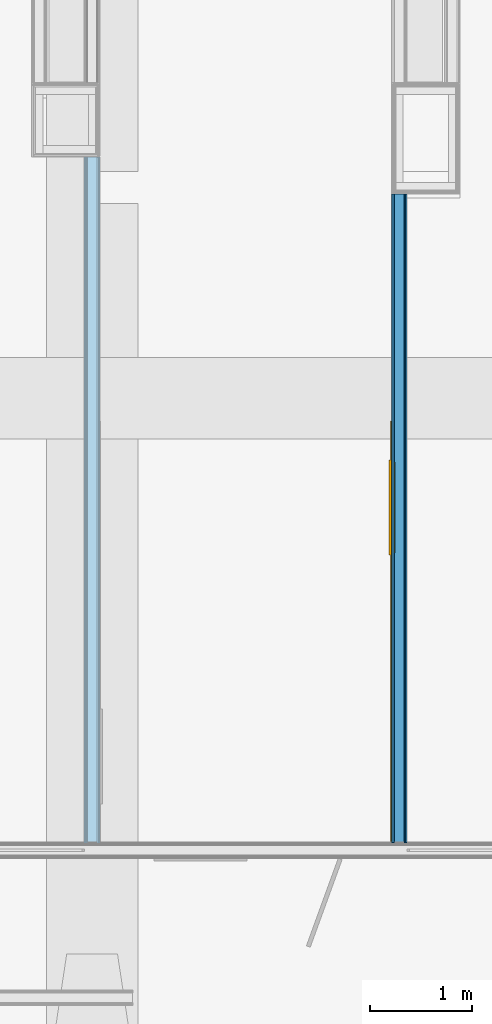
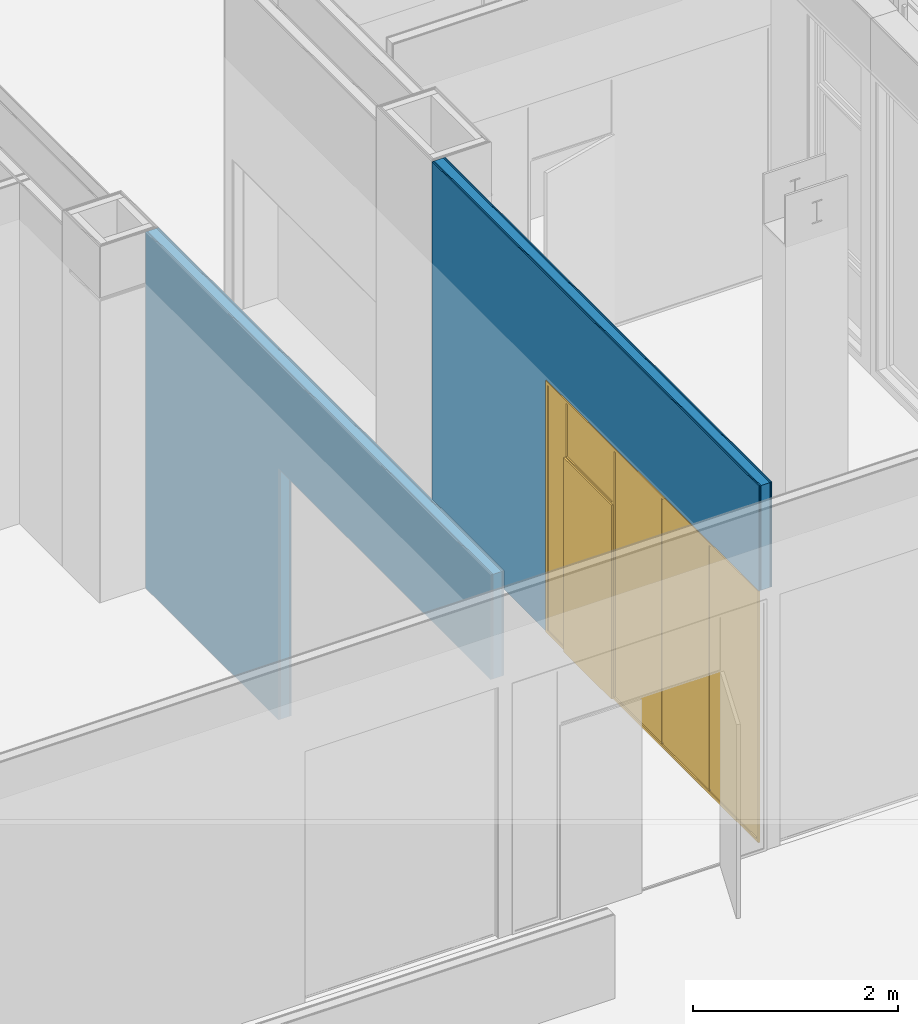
# One storey, part 70 of 94: 5 building element parts, 1 door, 2 openings, 2 elements without a shape of their own, plus 5 elements that do not belong to this part.
"""IFC2X3 building model written with IfcOpenShell, lengths in millimetres."""

from ifc_helpers import new_model, entity, si_unit, converted_unit, derived_unit, money_unit, direction, frame, origin_with_axes, place, context, subcontext, project, spatial, open_shell, faceted_brep, surface_model, material, type_object, element, fill, aggregate, save


model = new_model("IFC2X3")

# Units and contexts
model_context = context("Model", 3, precision=0.01, world=origin_with_axes(), true_north=direction((0.0, 1.0)))
body_context = subcontext(model_context, "Body", "Model", "MODEL_VIEW")
ifc_project = project(units=[si_unit("LENGTHUNIT", "METRE", prefix="MILLI"), si_unit("AREAUNIT", "SQUARE_METRE"), si_unit("VOLUMEUNIT", "CUBIC_METRE"), converted_unit("PLANEANGLEUNIT", "DEGREE", entity("IfcPlaneAngleMeasure", 0.0174532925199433), si_unit("PLANEANGLEUNIT", "RADIAN"), dimensions=[0, 0, 0, 0, 0, 0, 0]), money_unit("EUR"), converted_unit("TIMEUNIT", "Year", entity("IfcTimeMeasure", 31557600.0), si_unit("TIMEUNIT", "SECOND"), dimensions=[0, 0, 1, 0, 0, 0, 0]), si_unit("MASSUNIT", "GRAM", prefix="KILO"), si_unit("THERMODYNAMICTEMPERATUREUNIT", "DEGREE_CELSIUS"), si_unit("LUMINOUSINTENSITYUNIT", "LUMEN"), si_unit("ENERGYUNIT", "JOULE", prefix="MEGA"), derived_unit("THERMALCONDUCTANCEUNIT", [(si_unit("POWERUNIT", "WATT"), 1), (si_unit("LENGTHUNIT", "METRE"), -1), (si_unit("THERMODYNAMICTEMPERATUREUNIT", "KELVIN"), -1)]), derived_unit("SPECIFICHEATCAPACITYUNIT", [(si_unit("ENERGYUNIT", "JOULE"), 1), (si_unit("MASSUNIT", "GRAM", prefix="KILO"), -1), (si_unit("THERMODYNAMICTEMPERATUREUNIT", "KELVIN"), -1)]), derived_unit("MASSDENSITYUNIT", [(si_unit("MASSUNIT", "GRAM", prefix="KILO"), 1), (si_unit("VOLUMEUNIT", "CUBIC_METRE"), -1)])], contexts=[model_context])

# Site, building, storey
site_placement = place(None, origin_with_axes())
site = spatial("IfcSite", under=ifc_project, at=site_placement, Name="<site naam>", CompositionType="ELEMENT")
building_placement = place(site_placement, origin_with_axes())
building = spatial("IfcBuilding", under=site, at=building_placement, Name="<Naam gebouw>", CompositionType="ELEMENT")
storey_placement = place(building_placement, frame((0.0, 0.0, 4250.0), z_axis=(0.0, 0.0, 1.0), x_axis=(1.0, 0.0, 0.0)))
storey = spatial("IfcBuildingStorey", under=building, at=storey_placement, Name="01 1e verdieping", CompositionType="ELEMENT", Elevation=4250.0)

# Door
door_style = type_object("IfcDoorStyle", Name="D1 bl zl2 27", ConstructionType="NOTDEFINED", OperationType="USERDEFINED", ParameterTakesPrecedence=False, Sizeable=False)
wall_1_placement = place(storey_placement, frame((-974.9999999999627, 2012.500000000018, 0.0), z_axis=(0.0, 0.0, 1.0), x_axis=(0.0, -1.0, 0.0)))
opening_1_placement = place(wall_1_placement, frame((4313.282579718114, 0.0, 0.0), z_axis=(0.0, 0.0, 1.0), x_axis=(1.0, 0.0, 0.0)))
door_placement = place(opening_1_placement, frame((2075.782579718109, 0.0, 0.0), z_axis=(0.0, 0.0, 1.0), x_axis=(-1.0, 0.0, 0.0)))
door = element("IfcDoor", 1, at=door_placement, inside=storey, type_object=door_style, Name="22_BI-F-18_305", ObjectType="DOOR", OverallHeight=3000.0, OverallWidth=4151.56, context=body_context, shape_type="SurfaceModel", body=[
    faceted_brep([(3768.565159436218, 44.99999999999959, 0.0), (3751.565159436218, 44.99999999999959, 0.0), (3751.565159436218, 44.99999999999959, 11.99999999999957), (3768.565159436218, 44.99999999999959, 11.99999999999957), (2834.56515943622, 44.99999999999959, 0.0), (2851.56515943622, 44.99999999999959, 0.0), (2851.56515943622, 64.99999999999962, 0.0), (3751.565159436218, 64.99999999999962, 0.0), (3751.565159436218, 64.99999999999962, 11.99999999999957), (2851.56515943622, 64.99999999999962, 11.99999999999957), (2851.56515943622, 44.99999999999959, 11.99999999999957), (2834.56515943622, 44.99999999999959, 11.99999999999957)], [[[0, 1, 2, 3]], [[0, 4, 5, 6, 7, 1]], [[1, 7, 8, 2]], [[3, 2, 8, 9, 10, 11]], [[4, 0, 3, 11]], [[5, 4, 11, 10]], [[6, 5, 10, 9]], [[7, 6, 9, 8]]]),
    faceted_brep([(4151.565159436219, 84.99999999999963, 0.0), (4151.565159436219, 64.99999999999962, 0.0), (4118.565159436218, 64.99999999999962, 0.0), (4118.565159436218, 84.99999999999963, 0.0), (4151.565159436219, 84.9999999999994, 2967.0), (4151.565159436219, 64.99999999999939, 2967.0), (4118.565159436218, 64.99999999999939, 2967.0), (4118.565159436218, 64.99999999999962, 33.00000000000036), (4118.565159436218, 84.99999999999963, 33.00000000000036), (4118.565159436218, 84.9999999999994, 2967.0)], [[[0, 1, 2, 3]], [[4, 5, 1, 0]], [[1, 5, 6, 7, 2]], [[3, 2, 7, 8]], [[0, 3, 8, 9, 4]], [[9, 6, 5, 4]], [[8, 7, 6, 9]]]),
    faceted_brep([(3768.565159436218, 64.99999999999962, 0.0), (3793.565159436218, 64.99999999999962, 0.0), (3793.565159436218, 64.99999999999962, 32.99999999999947), (3793.565159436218, 64.99999999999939, 2967.0), (3751.565159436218, 64.99999999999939, 2967.0), (3751.565159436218, 64.99999999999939, 2333.0), (3751.565159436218, 64.99999999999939, 2317.0), (3768.565159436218, 64.99999999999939, 2317.0), (3768.565159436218, 84.99999999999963, 0.0), (3793.565159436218, 84.99999999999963, 0.0), (3793.565159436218, 84.99999999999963, 32.99999999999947), (3793.565159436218, 84.9999999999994, 2967.0), (3751.565159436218, 84.9999999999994, 2967.0), (3751.565159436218, 84.9999999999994, 2333.0), (3751.565159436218, 84.9999999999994, 2317.0), (3768.565159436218, 84.9999999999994, 2317.0)], [[[0, 1, 2, 3, 4, 5, 6, 7]], [[8, 9, 1, 0]], [[9, 10, 2, 1]], [[10, 11, 3, 2]], [[11, 12, 4, 3]], [[12, 13, 5, 4]], [[6, 5, 13, 14]], [[14, 15, 7, 6]], [[7, 15, 8, 0]], [[15, 14, 13, 12, 11, 10, 9, 8]]]),
    faceted_brep([(4118.565159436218, 84.99999999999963, 33.00000000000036), (4118.565159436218, 64.99999999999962, 33.00000000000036), (4118.565159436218, 64.99999999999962, 0.0), (4118.565159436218, 84.99999999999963, 0.0), (3793.565159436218, 84.99999999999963, 33.00000000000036), (3793.565159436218, 64.99999999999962, 33.00000000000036), (3793.565159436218, 64.99999999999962, 0.0), (3793.565159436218, 84.99999999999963, 0.0)], [[[0, 1, 2, 3]], [[4, 5, 1, 0]], [[1, 5, 6, 2]], [[3, 2, 6, 7]], [[0, 3, 7, 4]], [[7, 6, 5, 4]]]),
    faceted_brep([(0.0, 84.99999999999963, 0.0), (0.0, 64.99999999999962, 0.0), (0.0, 64.99999999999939, 2967.0), (0.0, 84.9999999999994, 2967.0), (33.00000000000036, 84.99999999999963, 0.0), (33.00000000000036, 64.99999999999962, 0.0), (33.00000000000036, 64.99999999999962, 33.00000000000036), (33.00000000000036, 64.99999999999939, 2967.0), (33.00000000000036, 84.9999999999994, 2967.0), (33.00000000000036, 84.99999999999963, 33.00000000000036)], [[[0, 1, 2, 3]], [[4, 5, 1, 0]], [[1, 5, 6, 7, 2]], [[3, 2, 7, 8]], [[0, 3, 8, 9, 4]], [[9, 6, 5, 4]], [[8, 7, 6, 9]]]),
    faceted_brep([(2834.56515943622, 64.99999999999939, 2317.0), (2851.56515943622, 64.99999999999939, 2317.0), (2851.56515943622, 64.99999999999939, 2333.0), (2851.56515943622, 64.99999999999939, 2967.0), (2809.56515943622, 64.99999999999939, 2967.0), (2809.56515943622, 64.99999999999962, 32.99999999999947), (2809.56515943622, 64.99999999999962, 0.0), (2834.56515943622, 64.99999999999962, 0.0), (2834.56515943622, 84.9999999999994, 2317.0), (2851.56515943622, 84.9999999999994, 2317.0), (2851.56515943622, 84.9999999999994, 2333.0), (2851.56515943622, 84.9999999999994, 2967.0), (2809.56515943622, 84.9999999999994, 2967.0), (2809.56515943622, 84.99999999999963, 32.99999999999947), (2809.56515943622, 84.99999999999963, 0.0), (2834.56515943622, 84.99999999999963, 0.0)], [[[0, 1, 2, 3, 4, 5, 6, 7]], [[0, 8, 9, 1]], [[9, 10, 2, 1]], [[10, 11, 3, 2]], [[11, 12, 4, 3]], [[12, 13, 5, 4]], [[13, 14, 6, 5]], [[7, 6, 14, 15]], [[7, 15, 8, 0]], [[8, 15, 14, 13, 12, 11, 10, 9]]]),
    faceted_brep([(2809.56515943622, 84.99999999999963, 33.00000000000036), (2809.56515943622, 64.99999999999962, 33.00000000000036), (2809.56515943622, 64.99999999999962, 0.0), (2809.56515943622, 84.99999999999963, 0.0), (33.00000000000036, 84.99999999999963, 33.00000000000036), (33.00000000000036, 64.99999999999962, 33.00000000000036), (33.00000000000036, 64.99999999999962, 0.0), (33.00000000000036, 84.99999999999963, 0.0)], [[[0, 1, 2, 3]], [[4, 5, 1, 0]], [[1, 5, 6, 2]], [[3, 2, 6, 7]], [[0, 3, 7, 4]], [[7, 6, 5, 4]]]),
    faceted_brep([(4151.565159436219, 84.9999999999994, 3000.0), (4151.565159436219, 64.99999999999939, 3000.0), (4151.565159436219, 64.99999999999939, 2967.0), (4151.565159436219, 84.9999999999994, 2967.0), (0.0, 84.9999999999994, 3000.0), (0.0, 64.99999999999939, 3000.0), (0.0, 64.99999999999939, 2967.0), (33.00000000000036, 64.99999999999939, 2967.0), (2809.56515943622, 64.99999999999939, 2967.0), (2851.56515943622, 64.99999999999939, 2967.0), (3751.565159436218, 64.99999999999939, 2967.0), (3793.565159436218, 64.99999999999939, 2967.0), (4118.565159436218, 64.99999999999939, 2967.0), (4118.565159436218, 84.9999999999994, 2967.0), (3793.565159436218, 84.9999999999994, 2967.0), (3751.565159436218, 84.9999999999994, 2967.0), (2851.56515943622, 84.9999999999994, 2967.0), (2809.56515943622, 84.9999999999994, 2967.0), (33.00000000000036, 84.9999999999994, 2967.0), (0.0, 84.9999999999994, 2967.0)], [[[0, 1, 2, 3]], [[4, 5, 1, 0]], [[1, 5, 6, 7, 8, 9, 10, 11, 12, 2]], [[3, 2, 12, 13]], [[0, 3, 13, 14, 15, 16, 17, 18, 19, 4]], [[19, 6, 5, 4]], [[18, 7, 6, 19]], [[17, 8, 7, 18]], [[16, 9, 8, 17]], [[15, 10, 9, 16]], [[14, 11, 10, 15]], [[13, 12, 11, 14]]]),
    faceted_brep([(3751.565159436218, 64.99999999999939, 2317.0), (3751.565159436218, 64.99999999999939, 2333.0), (2851.56515943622, 64.99999999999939, 2333.0), (2851.56515943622, 64.99999999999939, 2317.0), (3751.565159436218, 84.9999999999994, 2317.0), (3751.565159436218, 84.9999999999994, 2333.0), (2851.56515943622, 84.9999999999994, 2333.0), (2851.56515943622, 84.9999999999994, 2317.0)], [[[0, 1, 2, 3]], [[4, 5, 1, 0]], [[5, 6, 2, 1]], [[3, 2, 6, 7]], [[7, 4, 0, 3]], [[7, 6, 5, 4]]]),
    faceted_brep([(2834.56515943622, 102.9999999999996, 0.0), (3768.565159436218, 102.9999999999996, 0.0), (3768.565159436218, 62.99999999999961, 0.0), (2834.56515943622, 62.99999999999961, 0.0), (2834.56515943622, 102.9999999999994, 2317.0), (3768.565159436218, 102.9999999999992, 2317.0), (3768.565159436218, 62.99999999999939, 2317.0), (2834.56515943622, 62.99999999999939, 2317.0)], [[[0, 1, 2, 3]], [[0, 4, 5, 1]], [[1, 5, 6, 2]], [[3, 2, 6, 7]], [[4, 0, 3, 7]], [[5, 4, 7, 6]]]),
    surface_model("IfcShellBasedSurfaceModel", [(3751.565159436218, 58.99999999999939, 2333.0), (3751.565159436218, 58.99999999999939, 2967.0), (2851.56515943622, 58.99999999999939, 2967.0), (2851.56515943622, 58.99999999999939, 2333.0)], [open_shell([[[0, 1, 2, 3]]])]),
    surface_model("IfcShellBasedSurfaceModel", [(3751.565159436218, 70.9999999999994, 2333.0), (2851.56515943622, 70.9999999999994, 2333.0), (2851.56515943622, 70.9999999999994, 2967.0), (3751.565159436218, 70.9999999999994, 2967.0)], [open_shell([[[0, 1, 2, 3]]])]),
    surface_model("IfcShellBasedSurfaceModel", [(4118.565159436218, 58.99999999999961, 33.00000000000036), (4118.565159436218, 58.99999999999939, 2967.0), (3793.565159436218, 58.99999999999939, 2967.0), (3793.565159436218, 58.99999999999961, 33.00000000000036)], [open_shell([[[0, 1, 2, 3]]])]),
    surface_model("IfcShellBasedSurfaceModel", [(4118.565159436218, 70.99999999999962, 33.00000000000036), (3793.565159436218, 70.99999999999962, 33.00000000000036), (3793.565159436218, 70.9999999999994, 2967.0), (4118.565159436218, 70.9999999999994, 2967.0)], [open_shell([[[0, 1, 2, 3]]])]),
    surface_model("IfcShellBasedSurfaceModel", [(1887.376772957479, 58.99999999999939, 33.00000000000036), (2809.56515943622, 58.99999999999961, 33.00000000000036), (2809.56515943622, 58.99999999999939, 2967.0), (1887.376772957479, 58.99999999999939, 2967.0)], [open_shell([[[0, 1, 2, 3]]])]),
    surface_model("IfcShellBasedSurfaceModel", [(1887.376772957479, 70.9999999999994, 33.00000000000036), (1887.376772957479, 70.99999999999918, 2967.0), (2809.56515943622, 70.9999999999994, 2967.0), (2809.56515943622, 70.99999999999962, 33.00000000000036)], [open_shell([[[0, 1, 2, 3]]])]),
    surface_model("IfcShellBasedSurfaceModel", [(960.1883864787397, 58.99999999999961, 33.00000000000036), (1882.37677295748, 58.99999999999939, 33.00000000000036), (1882.37677295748, 58.99999999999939, 2967.0), (960.1883864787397, 58.99999999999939, 2967.0)], [open_shell([[[0, 1, 2, 3]]])]),
    surface_model("IfcShellBasedSurfaceModel", [(960.1883864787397, 70.99999999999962, 33.00000000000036), (960.1883864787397, 70.9999999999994, 2967.0), (1882.37677295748, 70.99999999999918, 2967.0), (1882.37677295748, 70.9999999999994, 33.00000000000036)], [open_shell([[[0, 1, 2, 3]]])]),
    surface_model("IfcShellBasedSurfaceModel", [(33.00000000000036, 58.99999999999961, 33.00000000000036), (955.1883864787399, 58.99999999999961, 33.00000000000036), (955.1883864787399, 58.99999999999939, 2967.0), (33.00000000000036, 58.99999999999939, 2967.0)], [open_shell([[[0, 1, 2, 3]]])]),
    surface_model("IfcShellBasedSurfaceModel", [(33.00000000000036, 70.99999999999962, 33.00000000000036), (33.00000000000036, 70.9999999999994, 2967.0), (955.1883864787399, 70.9999999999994, 2967.0), (955.1883864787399, 70.99999999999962, 33.00000000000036)], [open_shell([[[0, 1, 2, 3]]])]),
    faceted_brep([(1887.376772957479, 79.99999999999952, 33.00000000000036), (1882.37677295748, 79.99999999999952, 33.00000000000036), (1882.37677295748, 84.9999999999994, 33.00000000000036), (1887.376772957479, 84.9999999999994, 33.00000000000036), (1887.376772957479, 79.99999999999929, 2967.0), (1882.37677295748, 79.99999999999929, 2967.0), (1882.37677295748, 84.99999999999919, 2967.0), (1887.376772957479, 84.99999999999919, 2967.0)], [[[0, 1, 2, 3]], [[0, 4, 5, 1]], [[1, 5, 6, 2]], [[3, 2, 6, 7]], [[4, 0, 3, 7]], [[5, 4, 7, 6]]]),
    faceted_brep([(960.1883864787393, 79.99999999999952, 33.00000000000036), (955.1883864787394, 79.99999999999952, 33.00000000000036), (955.1883864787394, 84.99999999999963, 33.00000000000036), (960.1883864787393, 84.99999999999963, 33.00000000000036), (960.1883864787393, 79.99999999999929, 2967.0), (955.1883864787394, 79.99999999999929, 2967.0), (955.1883864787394, 84.9999999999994, 2967.0), (960.1883864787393, 84.9999999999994, 2967.0)], [[[0, 1, 2, 3]], [[0, 4, 5, 1]], [[1, 5, 6, 2]], [[3, 2, 6, 7]], [[4, 0, 3, 7]], [[5, 4, 7, 6]]]),
])

# Wall, opening
wall_type = type_object("IfcWallType", Name="MS-01 GF 150 ECO DGS/2.100.2.A 150", PredefinedType="NOTDEFINED")
wall_1 = element("IfcWall", 2, at=wall_1_placement, inside=storey, type_object=wall_type, Name="22_Binnenwand_MS-01")
opening_1 = element("IfcOpeningElement", 3, at=opening_1_placement, cuts=wall_1, Name="22_BI-F-18_305", context=body_context, shape_type="Brep", body=[
    faceted_brep([(2075.782579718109, 76.00000000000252, 3000.0), (2075.782579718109, 76.00000000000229, 0.0), (-2075.782579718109, 76.00000000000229, 0.0), (-2075.782579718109, 76.0000000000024, 3000.0), (2075.782579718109, -76.00000000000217, 3000.0), (2075.782579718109, -76.00000000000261, 0.0), (-2075.782579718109, -76.00000000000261, 0.0), (-2075.782579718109, -76.0000000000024, 3000.0)], [[[0, 1, 2, 3]], [[4, 5, 1, 0]], [[5, 6, 2, 1]], [[6, 7, 3, 2]], [[7, 4, 0, 3]], [[6, 5, 4, 7]]]),
])

fill(opening_1, door)

# Building element part
ifc_material_1 = material(Name="gipsplaat")
building_element_part_1_placement = place(wall_1_placement, origin_with_axes())
building_element_part_1 = element("IfcBuildingElementPart", 4, at=building_element_part_1_placement, material=ifc_material_1, Name="gipsplaat", context=body_context, shape_type="Brep", body=[
    faceted_brep([(6389.065159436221, 62.50000000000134, 0.0), (0.0, 62.5, 0.0), (0.0, 75.00000000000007, 0.0), (6389.065159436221, 75.0000000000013, 0.0), (6389.065159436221, 62.50000000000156, 4250.0), (0.0, 62.50000000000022, 4250.0), (0.0, 75.00000000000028, 4250.0), (6389.065159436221, 75.0000000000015, 4250.0)], [[[0, 1, 2, 3]], [[4, 5, 1, 0]], [[2, 1, 5, 6]], [[3, 2, 6, 7]], [[3, 7, 4, 0]], [[7, 6, 5, 4]]]),
])

building_element_part_2_placement = place(wall_1_placement, origin_with_axes())
building_element_part_2 = element("IfcBuildingElementPart", 5, at=building_element_part_2_placement, material=ifc_material_1, Name="gipsplaat", context=body_context, shape_type="Brep", body=[
    faceted_brep([(6389.065159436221, 50.00000000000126, 0.0), (0.0, 50.00000000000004, 0.0), (0.0, 62.5, 0.0), (6389.065159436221, 62.50000000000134, 0.0), (6389.065159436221, 50.0000000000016, 4250.0), (0.0, 50.00000000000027, 4250.0), (0.0, 62.50000000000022, 4250.0), (6389.065159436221, 62.50000000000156, 4250.0)], [[[0, 1, 2, 3]], [[4, 5, 1, 0]], [[2, 1, 5, 6]], [[3, 2, 6, 7]], [[3, 7, 4, 0]], [[7, 6, 5, 4]]]),
])

building_element_part_3_placement = place(wall_1_placement, origin_with_axes())
building_element_part_3 = element("IfcBuildingElementPart", 6, at=building_element_part_3_placement, material=ifc_material_1, Name="gipsplaat", context=body_context, shape_type="Brep", body=[
    faceted_brep([(6389.065159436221, -62.49999999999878, 0.0), (0.0, -62.50000000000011, 0.0), (0.0, -49.99999999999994, 0.0), (6389.065159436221, -49.99999999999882, 0.0), (6389.065159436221, -62.49999999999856, 4250.0), (0.0, -62.49999999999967, 4250.0), (0.0, -49.99999999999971, 4250.0), (6389.065159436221, -49.9999999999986, 4250.0)], [[[0, 1, 2, 3]], [[4, 5, 1, 0]], [[2, 1, 5, 6]], [[3, 2, 6, 7]], [[3, 7, 4, 0]], [[7, 6, 5, 4]]]),
])

building_element_part_4_placement = place(wall_1_placement, origin_with_axes())
building_element_part_4 = element("IfcBuildingElementPart", 7, at=building_element_part_4_placement, material=ifc_material_1, Name="gipsplaat", context=body_context, shape_type="Brep", body=[
    faceted_brep([(6389.065159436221, -74.99999999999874, 0.0), (0.0, -75.00000000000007, 0.0), (0.0, -62.50000000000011, 0.0), (6389.065159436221, -62.49999999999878, 0.0), (6389.065159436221, -74.99999999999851, 4250.0), (0.0, -74.99999999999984, 4250.0), (0.0, -62.49999999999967, 4250.0), (6389.065159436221, -62.49999999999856, 4250.0)], [[[0, 1, 2, 3]], [[4, 5, 1, 0]], [[2, 1, 5, 6]], [[3, 2, 6, 7]], [[3, 7, 4, 0]], [[7, 6, 5, 4]]]),
])

ifc_material_2 = material(Name="isolatie_steenwol LSW")
building_element_part_5_placement = place(wall_1_placement, origin_with_axes())
building_element_part_5 = element("IfcBuildingElementPart", 8, at=building_element_part_5_placement, material=ifc_material_2, Name="isolatie_steenwol LSW", context=body_context, shape_type="Brep", body=[
    faceted_brep([(6389.065159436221, -49.99999999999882, 0.0), (0.0, -49.99999999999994, 0.0), (0.0, 50.00000000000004, 0.0), (6389.065159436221, 50.00000000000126, 0.0), (6389.065159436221, -49.9999999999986, 4250.0), (0.0, -49.99999999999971, 4250.0), (0.0, 50.00000000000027, 4250.0), (6389.065159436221, 50.0000000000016, 4250.0)], [[[0, 1, 2, 3]], [[4, 5, 1, 0]], [[2, 1, 5, 6]], [[3, 2, 6, 7]], [[3, 7, 4, 0]], [[7, 6, 5, 4]]]),
])

aggregate(wall_1, [building_element_part_1, building_element_part_2, building_element_part_3, building_element_part_4, building_element_part_5])

# Wall, opening, building element parts
wall_2_placement = place(storey_placement, frame((-3999.999999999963, 2374.8189865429, 0.0), z_axis=(0.0, 0.0, 1.0), x_axis=(0.0, -1.0, 0.0)))
wall_2 = element("IfcWall", 9, at=wall_2_placement, inside=storey, type_object=wall_type, Name="22_Binnenwand_MS-01")
opening_2_placement = place(wall_2_placement, frame((4675.601566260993, 0.0, 0.0), z_axis=(0.0, 0.0, 1.0), x_axis=(1.0, 0.0, 0.0)))
element("IfcOpeningElement", 10, at=opening_2_placement, cuts=wall_2, Name="22_BI-F-16_305", context=body_context, shape_type="Brep", body=[
    faceted_brep([(-2075.782579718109, -76.00000000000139, 3000.0), (-2075.782579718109, -76.00000000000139, 0.0), (2075.782579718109, -76.00000000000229, 0.0), (2075.782579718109, -76.00000000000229, 3000.0), (-2075.782579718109, 76.00000000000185, 3000.0), (-2075.782579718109, 76.00000000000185, 0.0), (2075.782579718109, 76.00000000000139, 0.0), (2075.782579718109, 76.00000000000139, 3000.0)], [[[0, 1, 2, 3]], [[4, 5, 1, 0]], [[5, 6, 2, 1]], [[6, 7, 3, 2]], [[7, 4, 0, 3]], [[6, 5, 4, 7]]]),
])
building_element_part_6_placement = place(wall_2_placement, origin_with_axes())
building_element_part_6 = element("IfcBuildingElementPart", 11, at=building_element_part_6_placement, material=ifc_material_1, Name="gipsplaat", context=body_context, shape_type="Brep", body=[
    faceted_brep([(6751.384145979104, 75.00008958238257, 3.000000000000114), (0.0, 75.00008958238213, 3.000000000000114), (0.0, 74.99999999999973, 4250.0), (6751.384145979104, 75.00000000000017, 4250.0), (0.0, 62.50000000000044, 3.000000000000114), (6751.384145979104, 62.49999999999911, 3.000000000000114), (0.0, 62.50000000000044, 4250.0), (6751.384145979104, 62.5, 4250.0)], [[[0, 1, 2, 3]], [[4, 1, 0, 5]], [[1, 4, 6, 2]], [[7, 3, 2, 6]], [[5, 0, 3, 7]], [[4, 5, 7, 6]]]),
])
building_element_part_7_placement = place(wall_2_placement, origin_with_axes())
building_element_part_7 = element("IfcBuildingElementPart", 12, at=building_element_part_7_placement, material=ifc_material_1, Name="gipsplaat", context=body_context, shape_type="Brep", body=[
    faceted_brep([(6751.384145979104, 62.49999999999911, 3.000000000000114), (0.0, 62.50000000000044, 3.000000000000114), (0.0, 62.50000000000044, 4250.0), (6751.384145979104, 62.5, 4250.0), (0.0, 49.99999999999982, 3.000000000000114), (6751.384145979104, 49.99999999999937, 3.000000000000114), (0.0, 50.00000000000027, 4250.0), (6751.384145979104, 49.99999999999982, 4250.0)], [[[0, 1, 2, 3]], [[4, 1, 0, 5]], [[1, 4, 6, 2]], [[7, 3, 2, 6]], [[5, 0, 3, 7]], [[4, 5, 7, 6]]]),
])
building_element_part_8_placement = place(wall_2_placement, origin_with_axes())
building_element_part_8 = element("IfcBuildingElementPart", 13, at=building_element_part_8_placement, material=ifc_material_2, Name="isolatie_steenwol LSW", context=body_context, shape_type="Brep", body=[
    faceted_brep([(6751.384145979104, 49.99999999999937, 3.000000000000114), (0.0, 49.99999999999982, 3.000000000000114), (0.0, 50.00000000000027, 4250.0), (6751.384145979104, 49.99999999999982, 4250.0), (0.0, -50.00000000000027, 3.000000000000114), (6751.384145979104, -50.00000000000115, 3.000000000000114), (0.0, -49.99999999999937, 4250.0), (6751.384145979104, -50.00000000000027, 4250.0)], [[[0, 1, 2, 3]], [[4, 1, 0, 5]], [[1, 4, 6, 2]], [[7, 3, 2, 6]], [[5, 0, 3, 7]], [[4, 5, 7, 6]]]),
])
building_element_part_9_placement = place(wall_2_placement, origin_with_axes())
building_element_part_9 = element("IfcBuildingElementPart", 14, at=building_element_part_9_placement, material=ifc_material_1, Name="gipsplaat", context=body_context, shape_type="Brep", body=[
    faceted_brep([(6751.384145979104, -50.00000000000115, 3.000000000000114), (0.0, -50.00000000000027, 3.000000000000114), (0.0, -49.99999999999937, 4250.0), (6751.384145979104, -50.00000000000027, 4250.0), (0.0, -62.49999999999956, 3.000000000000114), (6751.384145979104, -62.50000000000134, 3.000000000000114), (0.0, -62.49999999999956, 4250.0), (6751.384145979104, -62.50000000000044, 4250.0)], [[[0, 1, 2, 3]], [[4, 1, 0, 5]], [[1, 4, 6, 2]], [[7, 3, 2, 6]], [[5, 0, 3, 7]], [[4, 5, 7, 6]]]),
])
building_element_part_10_placement = place(wall_2_placement, origin_with_axes())
building_element_part_10 = element("IfcBuildingElementPart", 15, at=building_element_part_10_placement, material=ifc_material_1, Name="gipsplaat", context=body_context, shape_type="Brep", body=[
    faceted_brep([(6751.384145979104, -62.50000000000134, 3.000000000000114), (0.0, -62.49999999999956, 3.000000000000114), (0.0, -62.49999999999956, 4250.0), (6751.384145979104, -62.50000000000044, 4250.0), (0.0, -74.99999999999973, 3.000000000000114), (6751.384145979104, -75.00000000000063, 3.000000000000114), (0.0, -74.99999999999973, 4250.0), (6751.384145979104, -75.00000000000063, 4250.0)], [[[0, 1, 2, 3]], [[4, 1, 0, 5]], [[1, 4, 6, 2]], [[7, 3, 2, 6]], [[5, 0, 3, 7]], [[4, 5, 7, 6]]]),
])
aggregate(wall_2, [building_element_part_6, building_element_part_7, building_element_part_8, building_element_part_9, building_element_part_10])

save(model, "model.ifc")
